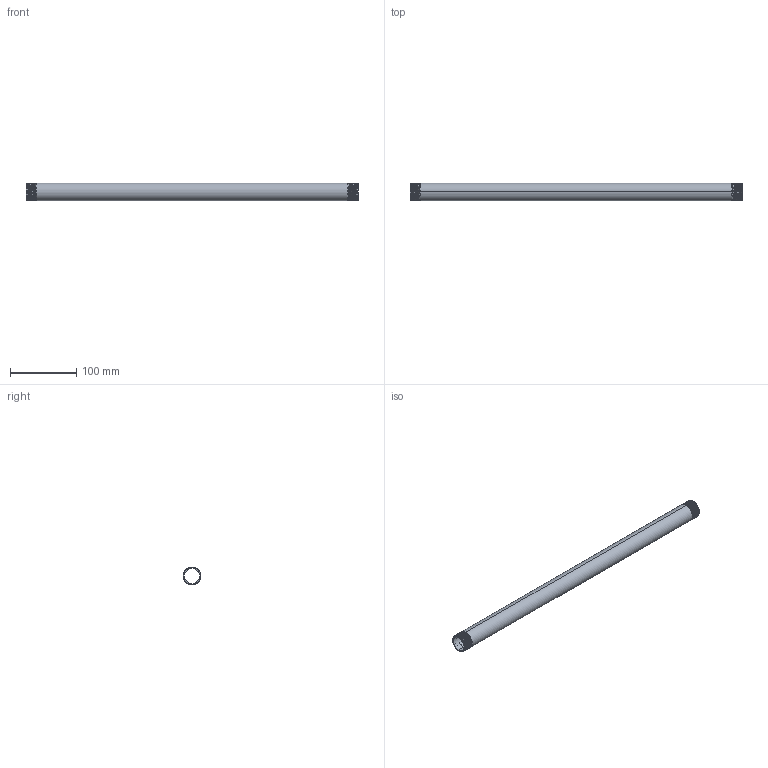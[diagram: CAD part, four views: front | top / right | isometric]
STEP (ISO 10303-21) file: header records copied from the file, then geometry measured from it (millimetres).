
FILE_DESCRIPTION (( 'STEP AP203' ), '1' );
FILE_NAME ('3D_R210_3-4x500_17191520.STEP', '2024-08-16T14:36:48', ( '' ), ( '' ), 'SwSTEP 2.0', 'SolidWorks 2024', '' );
FILE_SCHEMA (( 'CONFIG_CONTROL_DESIGN' ));
Length unit declared in the file: millimetre
Products named in the file (1): 3D_R210_3-4x500_17191520
Bounding box: 500 x 26.88 x 26.9 mm (x, y, z)
Volume: 77081.6 mm3; surface area: 79740.9 mm2
Topology: 1 solids, 1 shells, 68 faces, 192 edges, 126 vertices
Faces by surface type: cone 54, bspline 6, cylinder 4, plane 4
Entity records: 10627 total; most frequent: CARTESIAN_POINT 9037, ORIENTED_EDGE 384, DIRECTION 214, EDGE_CURVE 192, VERTEX_POINT 126, B_SPLINE_CURVE_WITH_KNOTS 108, AXIS2_PLACEMENT_3D 75, EDGE_LOOP 70
